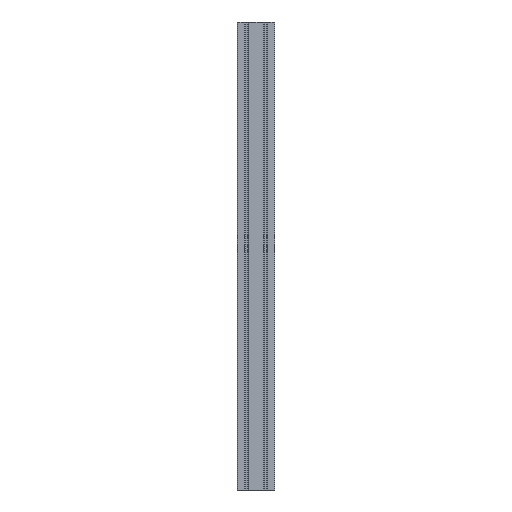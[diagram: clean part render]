
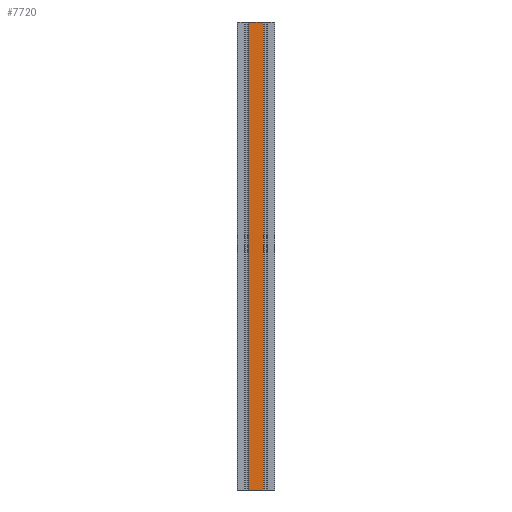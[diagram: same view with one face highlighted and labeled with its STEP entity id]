
A CAD part, front view. The second image highlights one B-rep face of the part: STEP entity #7720.
In plain terms, the highlighted planar face has unit normal (0, -1, 0).
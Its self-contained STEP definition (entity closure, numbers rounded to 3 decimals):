
#7662=CARTESIAN_POINT('',(283.01,119.484,1000.0));
#7663=VERTEX_POINT('',#7662);
#7671=CARTESIAN_POINT('',(283.01,119.484,0.0));
#7672=VERTEX_POINT('',#7671);
#7673=CARTESIAN_POINT('',(283.01,119.484,0.0));
#7674=DIRECTION('',(0.0,0.0,1.0));
#7675=VECTOR('',#7674,1000.0);
#7676=LINE('',#7673,#7675);
#7677=EDGE_CURVE('',#7672,#7663,#7676,.T.);
#7690=CARTESIAN_POINT('',(283.01,119.484,0.0));
#7691=DIRECTION('',(0.0,-1.0,0.0));
#7692=DIRECTION('',(0.0,0.0,-1.0));
#7693=AXIS2_PLACEMENT_3D('',#7690,#7691,#7692);
#7694=PLANE('',#7693);
#7695=CARTESIAN_POINT('',(252.31,119.484,1000.0));
#7696=VERTEX_POINT('',#7695);
#7697=CARTESIAN_POINT('',(283.01,119.484,1000.0));
#7698=DIRECTION('',(-1.0,0.0,0.0));
#7699=VECTOR('',#7698,30.7);
#7700=LINE('',#7697,#7699);
#7701=EDGE_CURVE('',#7663,#7696,#7700,.T.);
#7702=ORIENTED_EDGE('',*,*,#7701,.T.);
#7703=CARTESIAN_POINT('',(252.31,119.484,0.0));
#7704=VERTEX_POINT('',#7703);
#7705=CARTESIAN_POINT('',(252.31,119.484,0.0));
#7706=DIRECTION('',(0.0,0.0,1.0));
#7707=VECTOR('',#7706,1000.0);
#7708=LINE('',#7705,#7707);
#7709=EDGE_CURVE('',#7704,#7696,#7708,.T.);
#7710=ORIENTED_EDGE('',*,*,#7709,.F.);
#7711=CARTESIAN_POINT('',(252.31,119.484,0.0));
#7712=DIRECTION('',(1.0,0.0,0.0));
#7713=VECTOR('',#7712,30.7);
#7714=LINE('',#7711,#7713);
#7715=EDGE_CURVE('',#7704,#7672,#7714,.T.);
#7716=ORIENTED_EDGE('',*,*,#7715,.T.);
#7717=ORIENTED_EDGE('',*,*,#7677,.T.);
#7718=EDGE_LOOP('',(#7702,#7710,#7716,#7717));
#7719=FACE_OUTER_BOUND('',#7718,.T.);
#7720=ADVANCED_FACE('',(#7719),#7694,.T.);
